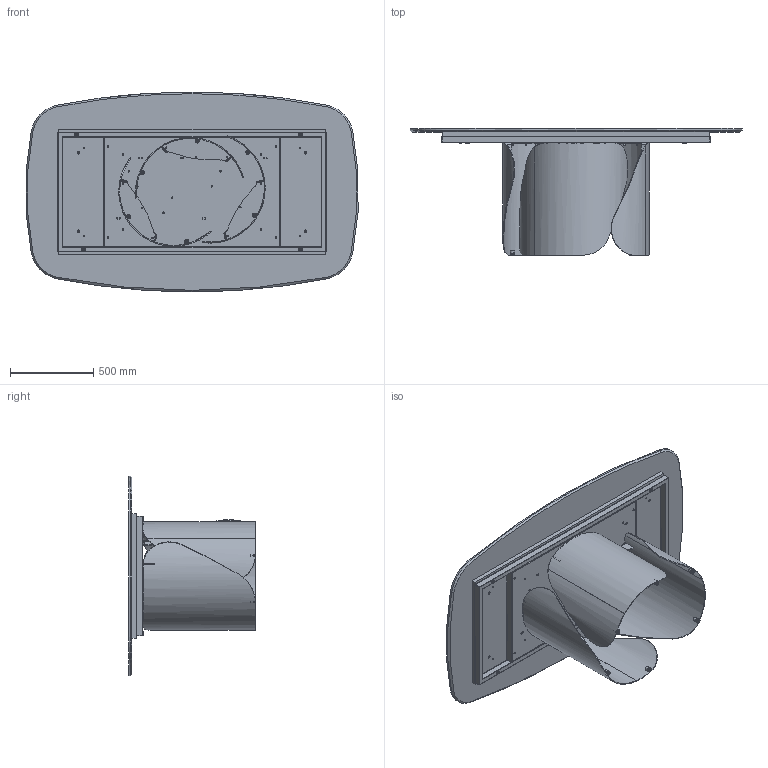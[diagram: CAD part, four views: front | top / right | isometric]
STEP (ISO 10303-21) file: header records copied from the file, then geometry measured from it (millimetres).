
FILE_DESCRIPTION (( 'STEP AP203' ), '1' );
FILE_NAME ('ON41M.STEP', '2024-08-06T13:53:49', ( '' ), ( '' ), 'SwSTEP 2.0', 'SolidWorks 2022', '' );
FILE_SCHEMA (( 'CONFIG_CONTROL_DESIGN' ));
Length unit declared in the file: millimetre
Products named in the file (17): OND000000_03-00-LAMIERA CURVATA PRINCIPALE_OND00000X-00-ONDA BASE GREZZA PROTOTIPO; TTAV0601_01-00-STRUTTURA X TAVOLI PLAI ONDA NOA 240; M4XMXX-00-Piani Sagomati in marmo_2000x1200; ON41M; rondella M8_8X24; TRUXXXXXX-00-NOBILITATO GR CON SUPP TRUCIOLARE SP. 25_TRU00004_1600x720; OND000000-03-ONDA BASE GREZZA; TTAV0601-00-TELAIO X TAVOLI PLAI ONDA NOA 240cm_TTAV06; OND000000_02-00-CILINDRO DI FISSAGGIO Ø25X17 M8; M4X-00-Piani Sagomati in marmo_2000 x 1200; M8xXXmm_M8x55mm; TTAV0601_02-00-VASSOIO TAVOLI PLAI ONDA NOA 240; COLLO BASE ONDA SINGOLA CON FERRAMENTA; COLLO TELAIO UNIVERSALE TTAV0601 CON FERRAMENTA_FERRAMENTA MTG TOP LEGNO-MARMO-KING; OND000000_01-00-PIASTRA SUPERIORE BASE ONDA; M8xXXmm_M8x20mm; PIEDINO PER ONDA
Assembly tree (49 placements, depth 4):
  ON41M
    COLLO TELAIO UNIVERSALE TTAV0601 CON FERRAMENTA_FERRAMENTA MTG TOP LEGNO-MARMO-KING
      TTAV0601-00-TELAIO X TAVOLI PLAI ONDA NOA 240cm_TTAV06
        TTAV0601_02-00-VASSOIO TAVOLI PLAI ONDA NOA 240
        TTAV0601_01-00-STRUTTURA X TAVOLI PLAI ONDA NOA 240
      rondella M8_8X24  x4
      M8xXXmm_M8x55mm  x4
    COLLO BASE ONDA SINGOLA CON FERRAMENTA  x3
      OND000000-03-ONDA BASE GREZZA
        OND000000_03-00-LAMIERA CURVATA PRINCIPALE_OND00000X-00-ONDA BASE GREZZA PROTOTIPO
        OND000000_01-00-PIASTRA SUPERIORE BASE ONDA
        OND000000_02-00-CILINDRO DI FISSAGGIO Ø25X17 M8  x2
      PIEDINO PER ONDA
    rondella M8_8X24  x12
    M8xXXmm_M8x20mm  x12
    M4XMXX-00-Piani Sagomati in marmo_2000x1200
      M4X-00-Piani Sagomati in marmo_2000 x 1200
      TRUXXXXXX-00-NOBILITATO GR CON SUPP TRUCIOLARE SP. 25_TRU00004_1600x720
Bounding box: 1992.14 x 761 x 1200 mm (x, y, z)
Volume: 86333230.2 mm3; surface area: 13265384.5 mm2
Topology: 60 solids, 60 shells, 1759 faces, 4013 edges, 2385 vertices
Faces by surface type: plane 624, cylinder 548, cone 303, torus 216, bspline 60, sphere 8
Entity records: 24722 total; most frequent: CARTESIAN_POINT 5400, DIRECTION 3647, ORIENTED_EDGE 3306, EDGE_CURVE 1653, AXIS2_PLACEMENT_3D 1384, VERTEX_POINT 1009, VECTOR 879, LINE 879
